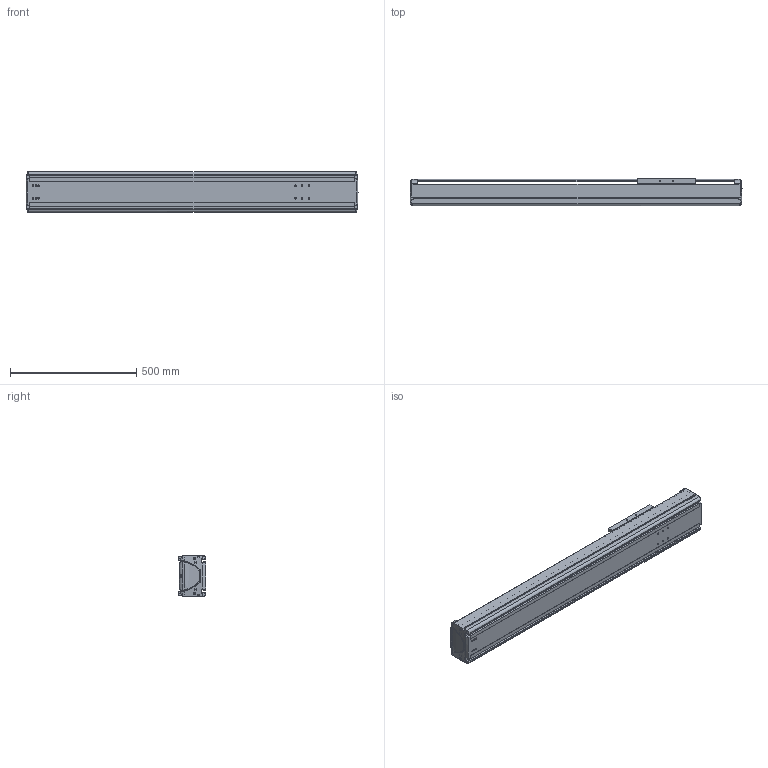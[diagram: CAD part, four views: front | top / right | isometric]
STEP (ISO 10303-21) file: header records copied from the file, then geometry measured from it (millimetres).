
FILE_DESCRIPTION((''),'2;1');
FILE_NAME('BE50G-ST-L_B-85_IGS_PRT','2017-06-18T',(' '),(''),'PRO/ENGINEER BY PARAMETRIC TECHNOLOGY CORPORATION, 2015030','PRO/ENGINEER BY PARAMETRIC TECHNOLOGY CORPORATION, 2015030','');
FILE_SCHEMA(('CONFIG_CONTROL_DESIGN'));
Length unit declared in the file: millimetre
Products named in the file (1): BE50G-ST-L_B-85_IGS_PRT
Bounding box: 1314.98 x 110 x 160 mm (x, y, z)
Volume: 5983142.4 mm3; surface area: 2026193.2 mm2
Topology: 2 solids, 89 shells, 1654 faces, 4410 edges, 2823 vertices
Faces by surface type: cylinder 722, plane 627, bspline 102, torus 87, cone 76, sphere 40
Entity records: 56988 total; most frequent: CARTESIAN_POINT 16357, ORIENTED_EDGE 8380, DIRECTION 8304, EDGE_CURVE 4364, AXIS2_PLACEMENT_3D 3100, VERTEX_POINT 2811, VECTOR 2104, LINE 2104
